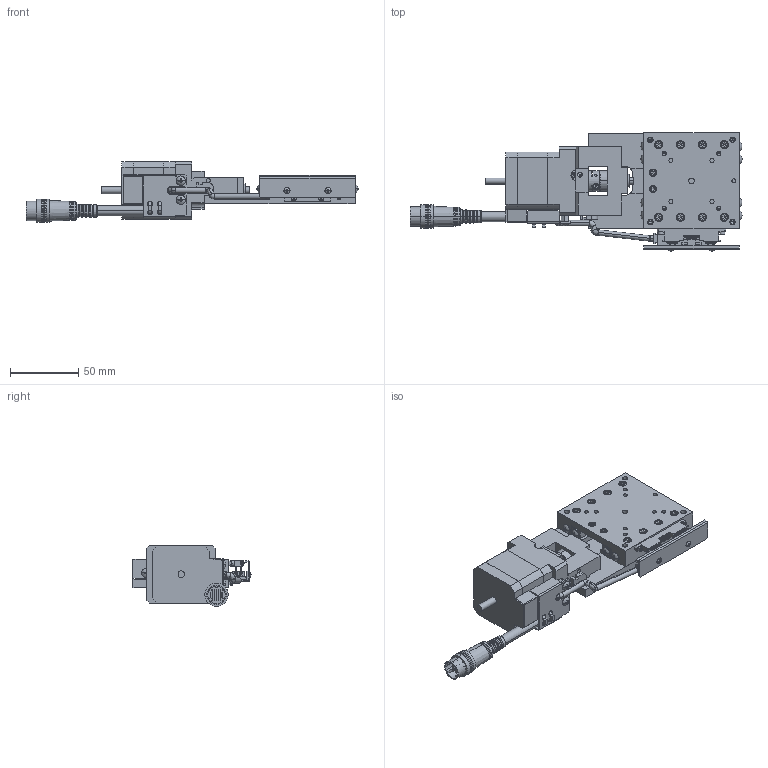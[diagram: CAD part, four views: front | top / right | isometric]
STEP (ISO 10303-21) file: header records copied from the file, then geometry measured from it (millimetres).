
FILE_DESCRIPTION (( 'STEP AP203' ), '1' );
FILE_NAME ('XA07A-R103.STEP', '2019-02-20T07:47:59', ( '' ), ( '' ), 'SwSTEP 2.0', 'SolidWorks 2018', '' );
FILE_SCHEMA (( 'CONFIG_CONTROL_DESIGN' ));
Length unit declared in the file: millimetre
Products named in the file (6): base-Part-2; XA07A-R103; base-Part-1; table; base; base-Part-3
Assembly tree (5 placements, depth 3):
  XA07A-R103
    base
      base-Part-1
      base-Part-2
      base-Part-3
    table
Bounding box: 242.39 x 86.18 x 44.5 mm (x, y, z)
Volume: 227426.9 mm3; surface area: 77297.7 mm2
Topology: 4 solids, 4 shells, 2071 faces, 5180 edges, 3180 vertices
Faces by surface type: plane 1168, cylinder 530, cone 285, torus 54, sphere 34
Entity records: 62445 total; most frequent: CARTESIAN_POINT 11471, DIRECTION 10999, ORIENTED_EDGE 10168, EDGE_CURVE 5084, AXIS2_PLACEMENT_3D 3974, VERTEX_POINT 3174, VECTOR 3051, LINE 3051
